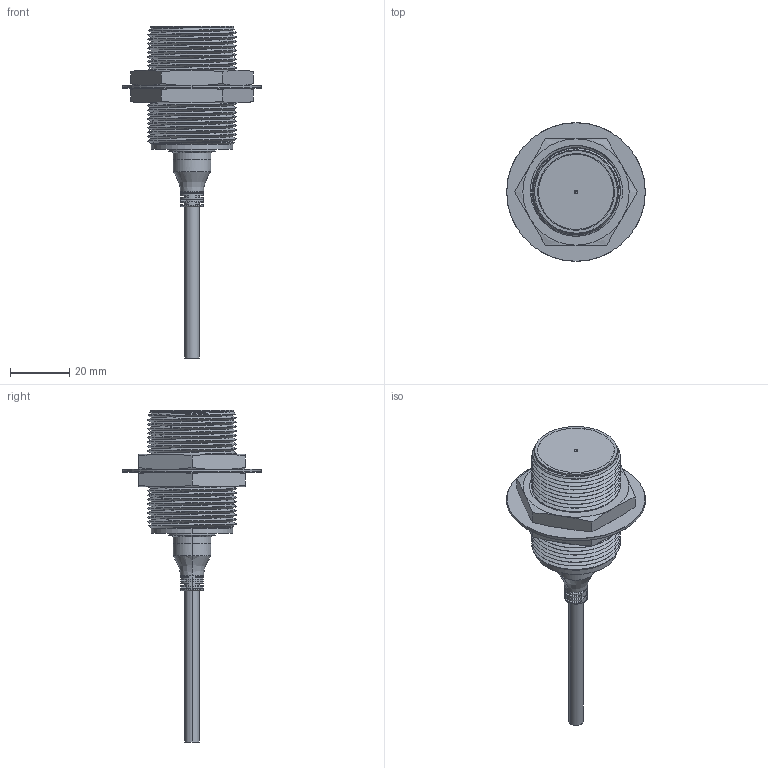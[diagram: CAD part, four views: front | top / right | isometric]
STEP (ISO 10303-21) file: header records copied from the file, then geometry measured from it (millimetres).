
FILE_DESCRIPTION (( 'STEP AP214' ), '1' );
FILE_NAME ('SN30Y-B-K40.STEP', '2025-08-20T09:41:53', ( 'Windows User' ), ( 'P R C' ), 'SwSTEP 2.0', 'SolidWorks 2023', '' );
FILE_SCHEMA (( 'AUTOMOTIVE_DESIGN' ));
Length unit declared in the file: millimetre
Products named in the file (9): ___________1.STEP.STEP; SN30Y-B-K40; SN30Y-埋入式.STEP.STEP; M30.STEP.STEP; _______1.STEP.STEP; SN30Y-埋入式.STEP; M30垫片.STEP; M30螺丝.STEP; M30X40____.STEP.STEP
Assembly tree (9 placements, depth 4):
  SN30Y-B-K40
    SN30Y-埋入式.STEP
      SN30Y-埋入式.STEP.STEP
        M30X40____.STEP.STEP
        M30.STEP.STEP
        ___________1.STEP.STEP
        _______1.STEP.STEP
      M30垫片.STEP
      M30螺丝.STEP  x2
Bounding box: 47 x 47 x 112.5 mm (x, y, z)
Volume: 35751.9 mm3; surface area: 24402.3 mm2
Topology: 9 solids, 9 shells, 449 faces, 1139 edges, 733 vertices
Faces by surface type: cylinder 173, plane 173, cone 51, bspline 28, torus 24
Entity records: 22878 total; most frequent: CARTESIAN_POINT 12951, ORIENTED_EDGE 2124, DIRECTION 1922, EDGE_CURVE 1062, AXIS2_PLACEMENT_3D 721, VERTEX_POINT 686, VECTOR 480, LINE 480
